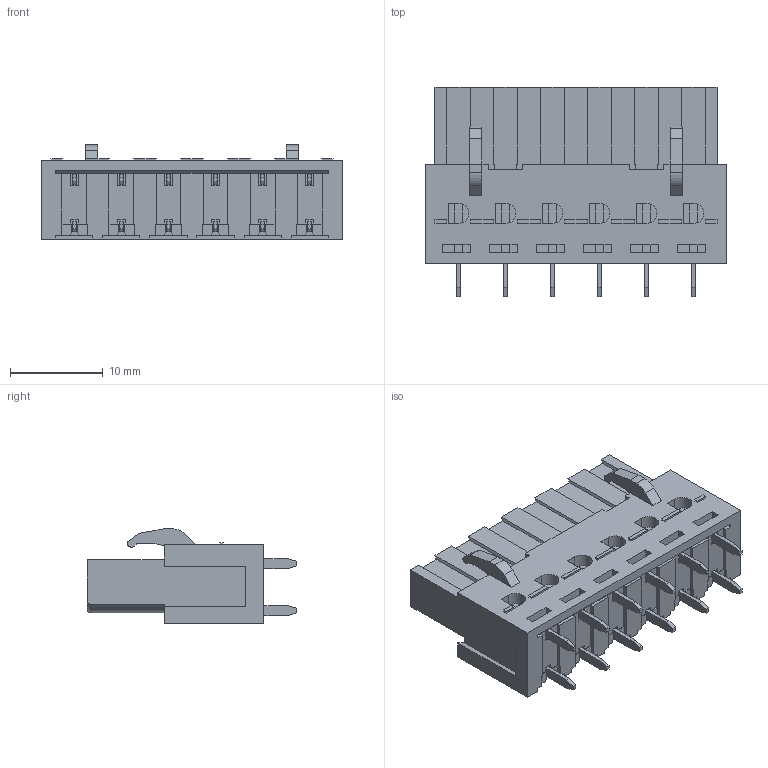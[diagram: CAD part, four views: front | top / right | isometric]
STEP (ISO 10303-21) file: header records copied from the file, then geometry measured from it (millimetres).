
FILE_DESCRIPTION(('STEP AP203'), '1');
FILE_NAME('WJ2EDGB-5.08-06P_1', '2022-06-29T14:29:07', (''), (''), 'C3D Converter', 'C3D Toolkit', '');
FILE_SCHEMA(('CONFIG_CONTROL_DESIGN'));
Length unit declared in the file: millimetre
Products named in the file (1): KLR2GB-5.08-06P
Bounding box: 32.48 x 22.6 x 10.2 mm (x, y, z)
Volume: 3771.1 mm3; surface area: 3179.3 mm2
Topology: 13 solids, 13 shells, 558 faces, 1475 edges, 968 vertices
Faces by surface type: plane 513, cylinder 33, torus 6, cone 6
Full cylindrical faces by diameter (mm): 3.16 x6
Entity records: 22158 total; most frequent: CARTESIAN_POINT 3822, ORIENTED_EDGE 2926, DIRECTION 2603, EDGE_CURVE 1463, LINE 1365, VECTOR 1365, VERTEX_POINT 968, AXIS2_PLACEMENT_3D 619
